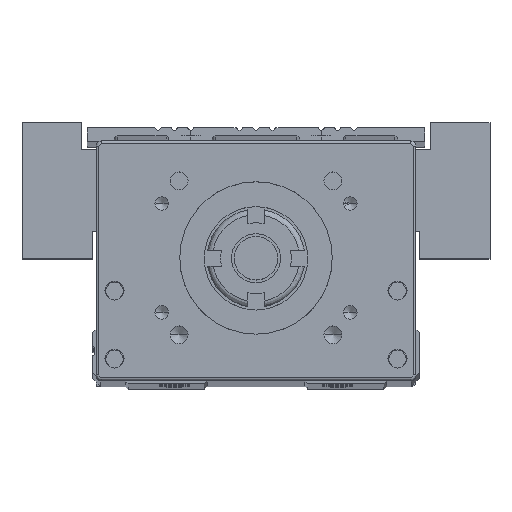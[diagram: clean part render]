
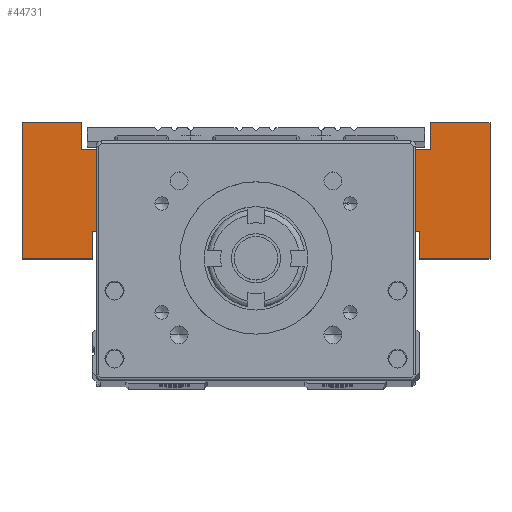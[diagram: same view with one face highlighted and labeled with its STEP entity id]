
A CAD part, top view. The second image highlights one B-rep face of the part: STEP entity #44731.
In plain terms, the highlighted planar face has unit normal (0, 0, 1).
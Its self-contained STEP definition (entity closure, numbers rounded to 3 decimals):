
#338 = CARTESIAN_POINT ( 'NONE',  ( -21., 33., 130.7 ) ) ;
#343 = LINE ( 'NONE', #48730, #33412 ) ;
#1543 = VECTOR ( 'NONE', #4318, 1000. ) ;
#1605 = ORIENTED_EDGE ( 'NONE', *, *, #29251, .T. ) ;
#1959 = EDGE_CURVE ( 'NONE', #55721, #8718, #29539, .T. ) ;
#2400 = DIRECTION ( 'NONE',  ( 0., -1., 0. ) ) ;
#2848 = VERTEX_POINT ( 'NONE', #15592 ) ;
#2995 = CARTESIAN_POINT ( 'NONE',  ( 21., 28., 130.7 ) ) ;
#3270 = LINE ( 'NONE', #58426, #14395 ) ;
#3412 = CARTESIAN_POINT ( 'NONE',  ( -32., 48., 130.7 ) ) ;
#4318 = DIRECTION ( 'NONE',  ( 1., 0., 0. ) ) ;
#4442 = ORIENTED_EDGE ( 'NONE', *, *, #62426, .T. ) ;
#5731 = CARTESIAN_POINT ( 'NONE',  ( 32., 48., 130.7 ) ) ;
#6210 = DIRECTION ( 'NONE',  ( 1., 0., 0. ) ) ;
#6374 = VERTEX_POINT ( 'NONE', #3412 ) ;
#6885 = ORIENTED_EDGE ( 'NONE', *, *, #53663, .T. ) ;
#7197 = ORIENTED_EDGE ( 'NONE', *, *, #53276, .T. ) ;
#7241 = LINE ( 'NONE', #45586, #24936 ) ;
#7630 = VERTEX_POINT ( 'NONE', #58751 ) ;
#7856 = CARTESIAN_POINT ( 'NONE',  ( 30., 33., 130.7 ) ) ;
#8500 = VERTEX_POINT ( 'NONE', #2995 ) ;
#8681 = VERTEX_POINT ( 'NONE', #49005 ) ;
#8718 = VERTEX_POINT ( 'NONE', #22868 ) ;
#9757 = EDGE_CURVE ( 'NONE', #8500, #44025, #36937, .T. ) ;
#11267 = EDGE_CURVE ( 'NONE', #13495, #55721, #16538, .T. ) ;
#12945 = VERTEX_POINT ( 'NONE', #56015 ) ;
#13464 = CARTESIAN_POINT ( 'NONE',  ( 30., 28., 130.7 ) ) ;
#13495 = VERTEX_POINT ( 'NONE', #69902 ) ;
#13823 = CARTESIAN_POINT ( 'NONE',  ( -30., 33., 130.7 ) ) ;
#14395 = VECTOR ( 'NONE', #63836, 1000. ) ;
#14596 = DIRECTION ( 'NONE',  ( 0., 1., 0. ) ) ;
#14704 = CARTESIAN_POINT ( 'NONE',  ( 0., 33., 130.7 ) ) ;
#15029 = DIRECTION ( 'NONE',  ( 1., 0., 0. ) ) ;
#15592 = CARTESIAN_POINT ( 'NONE',  ( -43., 48., 130.7 ) ) ;
#15961 = ORIENTED_EDGE ( 'NONE', *, *, #29986, .T. ) ;
#16344 = DIRECTION ( 'NONE',  ( 1., 0., 0. ) ) ;
#16538 = LINE ( 'NONE', #45165, #22803 ) ;
#17480 = VECTOR ( 'NONE', #70325, 1000. ) ;
#17949 = DIRECTION ( 'NONE',  ( 1., 0., 0. ) ) ;
#18391 = DIRECTION ( 'NONE',  ( 0., -1., 0. ) ) ;
#18875 = VECTOR ( 'NONE', #41861, 1000. ) ;
#20232 = VECTOR ( 'NONE', #29322, 1000. ) ;
#20972 = ORIENTED_EDGE ( 'NONE', *, *, #63260, .T. ) ;
#21106 = PLANE ( 'NONE',  #29545 ) ;
#22163 = DIRECTION ( 'NONE',  ( -1., 0., 0. ) ) ;
#22803 = VECTOR ( 'NONE', #17949, 1000. ) ;
#22813 = EDGE_CURVE ( 'NONE', #12945, #8681, #343, .T. ) ;
#22868 = CARTESIAN_POINT ( 'NONE',  ( -30., 28., 130.7 ) ) ;
#23519 = DIRECTION ( 'NONE',  ( 0., 1., 0. ) ) ;
#23598 = CARTESIAN_POINT ( 'NONE',  ( 32., 33., 130.7 ) ) ;
#24936 = VECTOR ( 'NONE', #18391, 1000. ) ;
#24998 = VECTOR ( 'NONE', #23519, 1000. ) ;
#26382 = CARTESIAN_POINT ( 'NONE',  ( -21., 28., 130.7 ) ) ;
#27432 = VERTEX_POINT ( 'NONE', #42556 ) ;
#29206 = VECTOR ( 'NONE', #2400, 1000. ) ;
#29251 = EDGE_CURVE ( 'NONE', #8681, #6374, #53922, .T. ) ;
#29322 = DIRECTION ( 'NONE',  ( 0., -1., 0. ) ) ;
#29539 = LINE ( 'NONE', #13823, #24998 ) ;
#29545 = AXIS2_PLACEMENT_3D ( 'NONE', #14704, #64096, #15029 ) ;
#29903 = ORIENTED_EDGE ( 'NONE', *, *, #43570, .T. ) ;
#29986 = EDGE_CURVE ( 'NONE', #7630, #8500, #7241, .T. ) ;
#30381 = EDGE_CURVE ( 'NONE', #31659, #7630, #53224, .T. ) ;
#31659 = VERTEX_POINT ( 'NONE', #338 ) ;
#31899 = CARTESIAN_POINT ( 'NONE',  ( 43., 33., 130.7 ) ) ;
#33412 = VECTOR ( 'NONE', #53405, 1000. ) ;
#34443 = VECTOR ( 'NONE', #6210, 1000. ) ;
#35036 = LINE ( 'NONE', #23598, #29206 ) ;
#35113 = CARTESIAN_POINT ( 'NONE',  ( -21., 33., 130.7 ) ) ;
#35843 = ORIENTED_EDGE ( 'NONE', *, *, #36811, .T. ) ;
#36811 = EDGE_CURVE ( 'NONE', #8718, #43016, #48877, .T. ) ;
#36937 = LINE ( 'NONE', #53402, #1543 ) ;
#37606 = ORIENTED_EDGE ( 'NONE', *, *, #9757, .T. ) ;
#37760 = CARTESIAN_POINT ( 'NONE',  ( 43., 23., 130.7 ) ) ;
#38085 = CARTESIAN_POINT ( 'NONE',  ( 0., 48., 130.7 ) ) ;
#38688 = VECTOR ( 'NONE', #14596, 1000. ) ;
#41186 = LINE ( 'NONE', #59735, #41805 ) ;
#41189 = LINE ( 'NONE', #35113, #69036 ) ;
#41805 = VECTOR ( 'NONE', #22163, 1000. ) ;
#41861 = DIRECTION ( 'NONE',  ( 1., 0., 0. ) ) ;
#42280 = ORIENTED_EDGE ( 'NONE', *, *, #60292, .T. ) ;
#42556 = CARTESIAN_POINT ( 'NONE',  ( 30., 23., 130.7 ) ) ;
#43016 = VERTEX_POINT ( 'NONE', #26382 ) ;
#43020 = DIRECTION ( 'NONE',  ( 0., 1., 0. ) ) ;
#43547 = CARTESIAN_POINT ( 'NONE',  ( 0., 33., 130.7 ) ) ;
#43570 = EDGE_CURVE ( 'NONE', #44159, #69670, #48047, .T. ) ;
#44025 = VERTEX_POINT ( 'NONE', #13464 ) ;
#44159 = VERTEX_POINT ( 'NONE', #37760 ) ;
#44731 = ADVANCED_FACE ( 'NONE', ( #65155 ), #21106, .T. ) ;
#45165 = CARTESIAN_POINT ( 'NONE',  ( 0., 23., 130.7 ) ) ;
#45352 = CARTESIAN_POINT ( 'NONE',  ( -30., 23., 130.7 ) ) ;
#45586 = CARTESIAN_POINT ( 'NONE',  ( 21., 33., 130.7 ) ) ;
#47207 = ORIENTED_EDGE ( 'NONE', *, *, #1959, .T. ) ;
#48047 = LINE ( 'NONE', #31899, #60186 ) ;
#48366 = ORIENTED_EDGE ( 'NONE', *, *, #53775, .T. ) ;
#48730 = CARTESIAN_POINT ( 'NONE',  ( -32., 43., 130.7 ) ) ;
#48877 = LINE ( 'NONE', #49226, #34443 ) ;
#48913 = CARTESIAN_POINT ( 'NONE',  ( -32., 48., 130.7 ) ) ;
#49005 = CARTESIAN_POINT ( 'NONE',  ( -32., 43., 130.7 ) ) ;
#49226 = CARTESIAN_POINT ( 'NONE',  ( 0., 28., 130.7 ) ) ;
#52466 = VECTOR ( 'NONE', #16344, 1000. ) ;
#52976 = CARTESIAN_POINT ( 'NONE',  ( 43., 48., 130.7 ) ) ;
#53039 = EDGE_LOOP ( 'NONE', ( #29903, #42280, #48366, #64742, #1605, #6885, #7197, #59137, #47207, #35843, #63804, #64831, #15961, #37606, #20972, #4442 ) ) ;
#53224 = LINE ( 'NONE', #43547, #52466 ) ;
#53276 = EDGE_CURVE ( 'NONE', #2848, #13495, #3270, .T. ) ;
#53402 = CARTESIAN_POINT ( 'NONE',  ( 0., 28., 130.7 ) ) ;
#53405 = DIRECTION ( 'NONE',  ( -1., 0., 0. ) ) ;
#53663 = EDGE_CURVE ( 'NONE', #6374, #2848, #41186, .T. ) ;
#53775 = EDGE_CURVE ( 'NONE', #66357, #12945, #35036, .T. ) ;
#53922 = LINE ( 'NONE', #48913, #38688 ) ;
#55721 = VERTEX_POINT ( 'NONE', #45352 ) ;
#56015 = CARTESIAN_POINT ( 'NONE',  ( 32., 43., 130.7 ) ) ;
#56553 = LINE ( 'NONE', #62312, #18875 ) ;
#57811 = EDGE_CURVE ( 'NONE', #43016, #31659, #41189, .T. ) ;
#57977 = LINE ( 'NONE', #7856, #20232 ) ;
#58426 = CARTESIAN_POINT ( 'NONE',  ( -43., 33., 130.7 ) ) ;
#58751 = CARTESIAN_POINT ( 'NONE',  ( 21., 33., 130.7 ) ) ;
#59137 = ORIENTED_EDGE ( 'NONE', *, *, #11267, .T. ) ;
#59735 = CARTESIAN_POINT ( 'NONE',  ( 0., 48., 130.7 ) ) ;
#60186 = VECTOR ( 'NONE', #43020, 1000. ) ;
#60292 = EDGE_CURVE ( 'NONE', #69670, #66357, #65268, .T. ) ;
#62312 = CARTESIAN_POINT ( 'NONE',  ( 0., 23., 130.7 ) ) ;
#62426 = EDGE_CURVE ( 'NONE', #27432, #44159, #56553, .T. ) ;
#63260 = EDGE_CURVE ( 'NONE', #44025, #27432, #57977, .T. ) ;
#63804 = ORIENTED_EDGE ( 'NONE', *, *, #57811, .T. ) ;
#63836 = DIRECTION ( 'NONE',  ( 0., -1., 0. ) ) ;
#64096 = DIRECTION ( 'NONE',  ( 0., 0., 1. ) ) ;
#64742 = ORIENTED_EDGE ( 'NONE', *, *, #22813, .T. ) ;
#64831 = ORIENTED_EDGE ( 'NONE', *, *, #30381, .T. ) ;
#65155 = FACE_OUTER_BOUND ( 'NONE', #53039, .T. ) ;
#65268 = LINE ( 'NONE', #38085, #17480 ) ;
#66357 = VERTEX_POINT ( 'NONE', #5731 ) ;
#67020 = DIRECTION ( 'NONE',  ( 0., 1., 0. ) ) ;
#69036 = VECTOR ( 'NONE', #67020, 1000. ) ;
#69670 = VERTEX_POINT ( 'NONE', #52976 ) ;
#69902 = CARTESIAN_POINT ( 'NONE',  ( -43., 23., 130.7 ) ) ;
#70325 = DIRECTION ( 'NONE',  ( -1., 0., 0. ) ) ;
